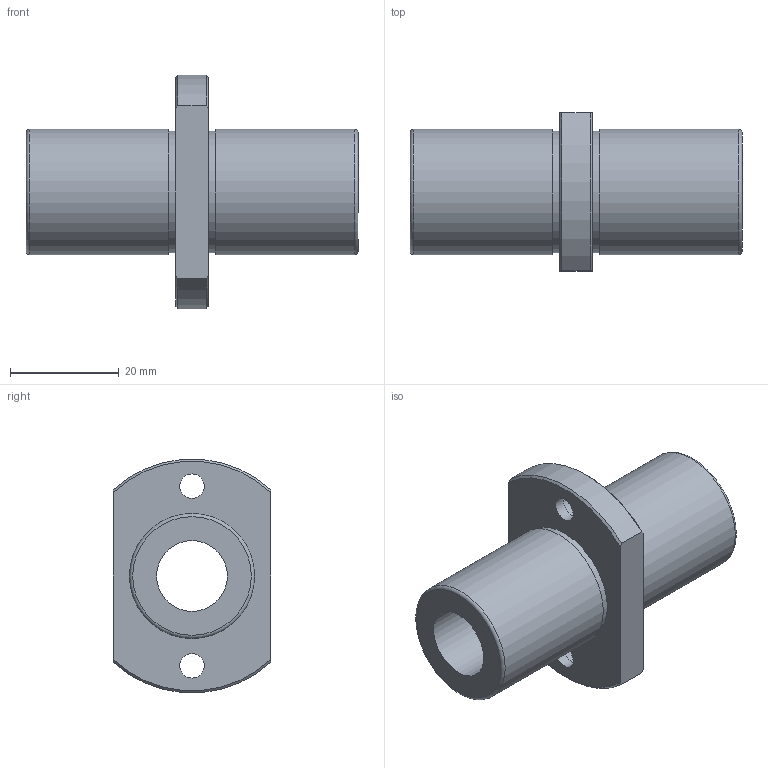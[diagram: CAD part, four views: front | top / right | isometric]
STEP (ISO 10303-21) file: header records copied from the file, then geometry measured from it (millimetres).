
FILE_DESCRIPTION(('STEP AP203'),'1');
FILE_NAME('//192.168.1.1/share/s-4 技術開発/s-4-4_CAD/s-4-4-3_見直し済み/002 修正済み/NFCO-VL/NFCO-VL_TOP/NFCO-13VLUU.step','2022-03-08T05:35:14',(' '),(' '),'Spatial InterOp 3D',' ',' ');
FILE_SCHEMA(('CONFIG_CONTROL_DESIGN'));
Length unit declared in the file: millimetre
Products named in the file (1): 1
Bounding box: 61 x 29 x 42.85 mm (x, y, z)
Volume: 21108.7 mm3; surface area: 9460.7 mm2
Topology: 1 solids, 1 shells, 27 faces, 59 edges, 40 vertices
Faces by surface type: cylinder 11, plane 10, cone 4, torus 2
Full cylindrical faces by diameter (mm): 4.5 x2, 7.5 x2, 13 x1, 22.3 x2, 23 x2
Entity records: 730 total; most frequent: CARTESIAN_POINT 132, DIRECTION 120, ORIENTED_EDGE 88, AXIS2_PLACEMENT_3D 56, EDGE_LOOP 50, EDGE_CURVE 44, FACE_OUTER_BOUND 38, VERTEX_POINT 36
